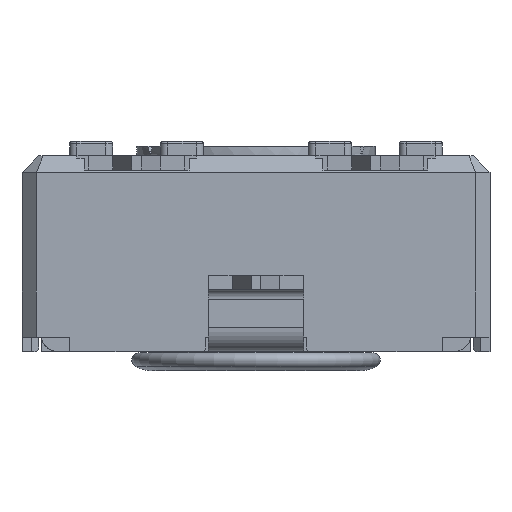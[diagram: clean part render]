
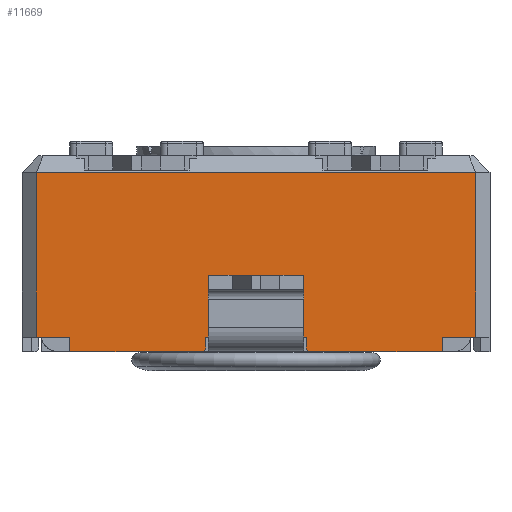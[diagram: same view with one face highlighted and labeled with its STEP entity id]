
A CAD part, front view. The second image highlights one B-rep face of the part: STEP entity #11669.
In plain terms, the highlighted planar face has unit normal (0, -1, 0).
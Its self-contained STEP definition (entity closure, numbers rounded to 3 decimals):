
#1038=FACE_OUTER_BOUND('',#1641,.T.);
#1641=EDGE_LOOP('',(#10405,#10406,#10407,#10408,#10409,#10410,#10411,#10412,
#10413,#10414,#10415,#10416,#10417,#10418,#10419,#10420));
#1700=LINE('',#15828,#3061);
#2305=LINE('',#17282,#3666);
#2311=LINE('',#17294,#3672);
#2319=LINE('',#17310,#3680);
#2325=LINE('',#17321,#3686);
#2489=LINE('',#17842,#3850);
#2495=LINE('',#17852,#3856);
#2498=LINE('',#17859,#3859);
#2511=LINE('',#17884,#3872);
#2567=LINE('',#17992,#3928);
#2569=LINE('',#17997,#3930);
#2571=LINE('',#18000,#3932);
#2573=LINE('',#18005,#3934);
#2759=LINE('',#18450,#4120);
#3002=LINE('',#19011,#4363);
#3004=LINE('',#19018,#4365);
#3061=VECTOR('',#12735,10.);
#3666=VECTOR('',#14018,10.);
#3672=VECTOR('',#14024,10.);
#3680=VECTOR('',#14034,10.);
#3686=VECTOR('',#14040,10.);
#3850=VECTOR('',#14512,10.);
#3856=VECTOR('',#14520,10.);
#3859=VECTOR('',#14527,10.);
#3872=VECTOR('',#14548,10.);
#3928=VECTOR('',#14648,10.);
#3930=VECTOR('',#14656,10.);
#3932=VECTOR('',#14660,10.);
#3934=VECTOR('',#14668,10.);
#4120=VECTOR('',#15092,10.);
#4363=VECTOR('',#15631,10.);
#4365=VECTOR('',#15643,10.);
#4405=VERTEX_POINT('',#15769);
#4418=VERTEX_POINT('',#15797);
#4932=VERTEX_POINT('',#17281);
#4937=VERTEX_POINT('',#17291);
#4938=VERTEX_POINT('',#17293);
#4944=VERTEX_POINT('',#17307);
#4945=VERTEX_POINT('',#17309);
#4950=VERTEX_POINT('',#17319);
#5098=VERTEX_POINT('',#17840);
#5099=VERTEX_POINT('',#17841);
#5102=VERTEX_POINT('',#17850);
#5103=VERTEX_POINT('',#17857);
#5104=VERTEX_POINT('',#17858);
#5112=VERTEX_POINT('',#17883);
#5257=VERTEX_POINT('',#18447);
#5258=VERTEX_POINT('',#18449);
#5514=EDGE_CURVE('',#4405,#4418,#1700,.T.);
#6245=EDGE_CURVE('',#4932,#4405,#2305,.T.);
#6251=EDGE_CURVE('',#4938,#4937,#2311,.T.);
#6259=EDGE_CURVE('',#4945,#4944,#2319,.T.);
#6265=EDGE_CURVE('',#4418,#4950,#2325,.T.);
#6507=EDGE_CURVE('',#5098,#5099,#2489,.T.);
#6513=EDGE_CURVE('',#5098,#5102,#2495,.T.);
#6516=EDGE_CURVE('',#5103,#5104,#2498,.T.);
#6529=EDGE_CURVE('',#5112,#5104,#2511,.T.);
#6585=EDGE_CURVE('',#4932,#5103,#2567,.T.);
#6587=EDGE_CURVE('',#4937,#5112,#2569,.T.);
#6589=EDGE_CURVE('',#4945,#5102,#2571,.T.);
#6591=EDGE_CURVE('',#4950,#5099,#2573,.T.);
#6811=EDGE_CURVE('',#5257,#5258,#2759,.T.);
#7090=EDGE_CURVE('',#5258,#4944,#3002,.T.);
#7092=EDGE_CURVE('',#5257,#4938,#3004,.T.);
#10405=ORIENTED_EDGE('',*,*,#6507,.F.);
#10406=ORIENTED_EDGE('',*,*,#6513,.T.);
#10407=ORIENTED_EDGE('',*,*,#6589,.F.);
#10408=ORIENTED_EDGE('',*,*,#6259,.T.);
#10409=ORIENTED_EDGE('',*,*,#7090,.F.);
#10410=ORIENTED_EDGE('',*,*,#6811,.F.);
#10411=ORIENTED_EDGE('',*,*,#7092,.T.);
#10412=ORIENTED_EDGE('',*,*,#6251,.T.);
#10413=ORIENTED_EDGE('',*,*,#6587,.T.);
#10414=ORIENTED_EDGE('',*,*,#6529,.T.);
#10415=ORIENTED_EDGE('',*,*,#6516,.F.);
#10416=ORIENTED_EDGE('',*,*,#6585,.F.);
#10417=ORIENTED_EDGE('',*,*,#6245,.T.);
#10418=ORIENTED_EDGE('',*,*,#5514,.T.);
#10419=ORIENTED_EDGE('',*,*,#6265,.T.);
#10420=ORIENTED_EDGE('',*,*,#6591,.T.);
#10888=PLANE('',#12556);
#11669=ADVANCED_FACE('',(#1038),#10888,.T.);
#12556=AXIS2_PLACEMENT_3D('',#19019,#15644,#15645);
#12735=DIRECTION('',(1.,0.,0.));
#14018=DIRECTION('',(1.,0.,0.));
#14024=DIRECTION('',(1.,0.,0.));
#14034=DIRECTION('',(1.,0.,0.));
#14040=DIRECTION('',(1.,0.,0.));
#14512=DIRECTION('',(-0.707,0.,0.707));
#14520=DIRECTION('',(1.,0.,0.));
#14527=DIRECTION('',(-0.707,0.,-0.707));
#14548=DIRECTION('',(1.,0.,0.));
#14648=DIRECTION('',(0.,0.,-1.));
#14656=DIRECTION('',(0.,0.,-1.));
#14660=DIRECTION('',(0.,0.,-1.));
#14668=DIRECTION('',(0.,0.,-1.));
#15092=DIRECTION('',(1.,0.,0.));
#15631=DIRECTION('',(0.,0.,-1.));
#15643=DIRECTION('',(0.,0.,-1.));
#15644=DIRECTION('center_axis',(0.,-1.,0.));
#15645=DIRECTION('ref_axis',(0.,0.,-1.));
#15769=CARTESIAN_POINT('',(-27.448,-17.99,-3.8));
#15797=CARTESIAN_POINT('',(-25.448,-17.99,-3.8));
#15828=CARTESIAN_POINT('',(-21.848,-17.99,-3.8));
#17281=CARTESIAN_POINT('',(-27.498,-17.99,-3.8));
#17282=CARTESIAN_POINT('',(-21.848,-17.99,-3.8));
#17291=CARTESIAN_POINT('',(-30.348,-17.99,-3.8));
#17293=CARTESIAN_POINT('',(-31.048,-17.99,-3.8));
#17294=CARTESIAN_POINT('',(-21.848,-17.99,-3.8));
#17307=CARTESIAN_POINT('',(-21.848,-17.99,-3.8));
#17309=CARTESIAN_POINT('',(-22.548,-17.99,-3.8));
#17310=CARTESIAN_POINT('',(-21.848,-17.99,-3.8));
#17319=CARTESIAN_POINT('',(-25.398,-17.99,-3.8));
#17321=CARTESIAN_POINT('',(-21.848,-17.99,-3.8));
#17840=CARTESIAN_POINT('',(-25.348,-17.99,-4.1));
#17841=CARTESIAN_POINT('',(-25.398,-17.99,-4.05));
#17842=CARTESIAN_POINT('',(-27.81,-17.99,-1.637));
#17850=CARTESIAN_POINT('',(-22.548,-17.99,-4.1));
#17852=CARTESIAN_POINT('',(-21.848,-17.99,-4.1));
#17857=CARTESIAN_POINT('',(-27.498,-17.99,-4.05));
#17858=CARTESIAN_POINT('',(-27.548,-17.99,-4.1));
#17859=CARTESIAN_POINT('',(-27.385,-17.99,-3.938));
#17883=CARTESIAN_POINT('',(-30.348,-17.99,-4.1));
#17884=CARTESIAN_POINT('',(-21.848,-17.99,-4.1));
#17992=CARTESIAN_POINT('',(-27.498,-17.99,-3.8));
#17997=CARTESIAN_POINT('',(-30.348,-17.99,-3.8));
#18000=CARTESIAN_POINT('',(-22.548,-17.99,-3.8));
#18005=CARTESIAN_POINT('',(-25.398,-17.99,-3.8));
#18447=CARTESIAN_POINT('',(-31.048,-17.99,-0.35));
#18449=CARTESIAN_POINT('',(-21.848,-17.99,-0.35));
#18450=CARTESIAN_POINT('',(-28.748,-17.99,-0.35));
#19011=CARTESIAN_POINT('',(-21.848,-17.99,0.));
#19018=CARTESIAN_POINT('',(-31.048,-17.99,0.));
#19019=CARTESIAN_POINT('Origin',(-31.048,-17.99,0.));
